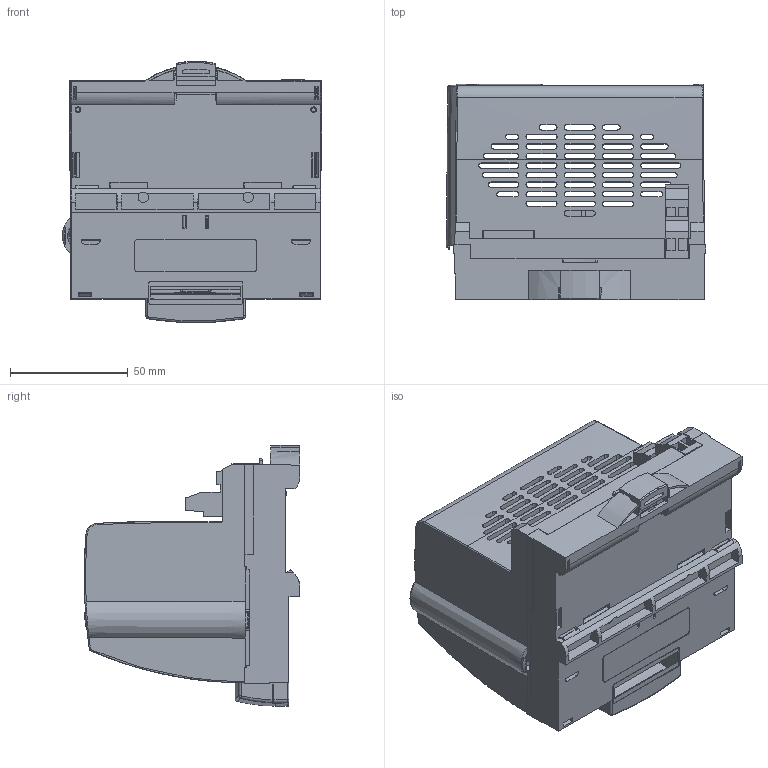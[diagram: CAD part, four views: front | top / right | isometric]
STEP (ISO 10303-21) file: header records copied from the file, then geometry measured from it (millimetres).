
FILE_DESCRIPTION((''),'2;1');
FILE_NAME('CU_POWER_SUPPLY_PS4','2007-08-17T',('jpearson'),(''),'PRO/ENGINEER BY PARAMETRIC TECHNOLOGY CORPORATION, 2006080','PRO/ENGINEER BY PARAMETRIC TECHNOLOGY CORPORATION, 2006080','');
FILE_SCHEMA(('CONFIG_CONTROL_DESIGN'));
Products named in the file (1): CU_POWER_SUPPLY_PS4
Bounding box: 110.26 x 91.62 x 111.12 mm (x, y, z)
Volume: 166789.8 mm3; surface area: 159931.1 mm2
Topology: 1 solids, 1 shells, 2367 faces, 6887 edges, 4507 vertices
Faces by surface type: plane 1552, cylinder 638, bspline 86, extrusion 37, torus 25, cone 24, sphere 5
Entity records: 92671 total; most frequent: CARTESIAN_POINT 31029, ORIENTED_EDGE 13766, DIRECTION 11422, EDGE_CURVE 6883, VECTOR 4830, LINE 4793, VERTEX_POINT 4507, AXIS2_PLACEMENT_3D 3296
